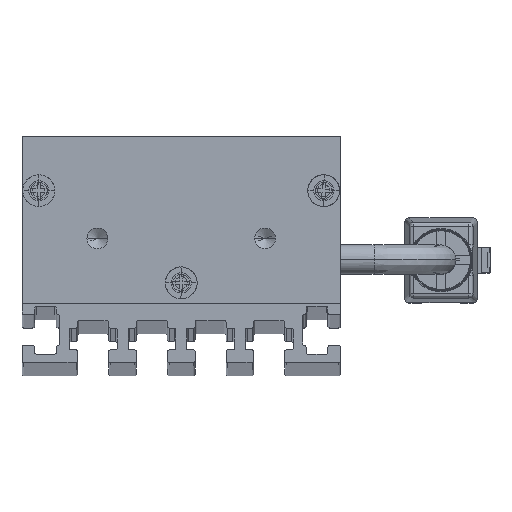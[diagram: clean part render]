
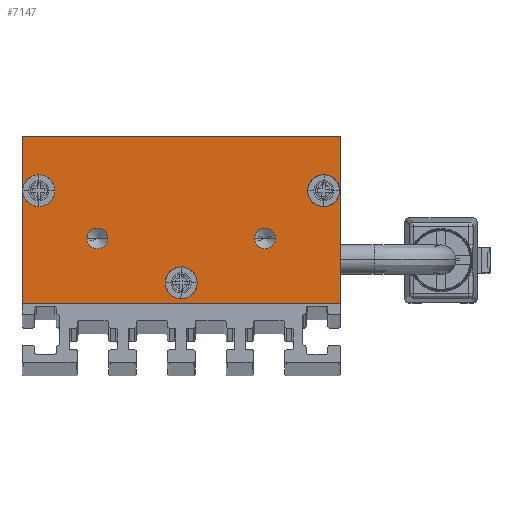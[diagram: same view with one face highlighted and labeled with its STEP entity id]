
A CAD part, top view. The second image highlights one B-rep face of the part: STEP entity #7147.
In plain terms, the highlighted planar face has unit normal (0, 0, 1) as drawn and (0, 0, -1) by its records, which use the part's own axes.
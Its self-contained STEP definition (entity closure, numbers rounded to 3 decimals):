
#45 = CARTESIAN_POINT ( 'NONE',  ( 0., 2.5, -2.5 ) ) ;
#59 = CARTESIAN_POINT ( 'NONE',  ( 17., 13.5, -2.5 ) ) ;
#112 = CARTESIAN_POINT ( 'NONE',  ( -11.25, 7.8, -2.5 ) ) ;
#306 = DIRECTION ( 'NONE',  ( -1., 0., 0. ) ) ;
#309 = ORIENTED_EDGE ( 'NONE', *, *, #7816, .F. ) ;
#433 = CARTESIAN_POINT ( 'NONE',  ( -8.75, 7.8, -2.5 ) ) ;
#612 = VERTEX_POINT ( 'NONE', #9077 ) ;
#811 = VECTOR ( 'NONE', #6672, 1000. ) ;
#864 = EDGE_CURVE ( 'NONE', #15354, #9208, #5000, .T. ) ;
#866 = DIRECTION ( 'NONE',  ( -1., 0., 0. ) ) ;
#1105 = FACE_BOUND ( 'NONE', #8194, .T. ) ;
#1161 = VERTEX_POINT ( 'NONE', #6047 ) ;
#1183 = FACE_BOUND ( 'NONE', #11532, .T. ) ;
#1735 = DIRECTION ( 'NONE',  ( 0., 0., -1. ) ) ;
#1776 = CIRCLE ( 'NONE', #11850, 1.25 ) ;
#1810 = AXIS2_PLACEMENT_3D ( 'NONE', #8389, #7142, #7389 ) ;
#2096 = DIRECTION ( 'NONE',  ( 0., -1., 0. ) ) ;
#2252 = EDGE_CURVE ( 'NONE', #1161, #3590, #14618, .T. ) ;
#2426 = PLANE ( 'NONE',  #12822 ) ;
#2740 = VERTEX_POINT ( 'NONE', #7694 ) ;
#2763 = CIRCLE ( 'NONE', #4338, 1.25 ) ;
#2865 = DIRECTION ( 'NONE',  ( 0., 0., -1. ) ) ;
#2963 = VERTEX_POINT ( 'NONE', #5857 ) ;
#3059 = CARTESIAN_POINT ( 'NONE',  ( -17., 13.5, -2.5 ) ) ;
#3121 = CIRCLE ( 'NONE', #15041, 1.25 ) ;
#3541 = EDGE_CURVE ( 'NONE', #15378, #1161, #7414, .T. ) ;
#3557 = CARTESIAN_POINT ( 'NONE',  ( -18.9, 13.5, -2.5 ) ) ;
#3590 = VERTEX_POINT ( 'NONE', #5359 ) ;
#3634 = ORIENTED_EDGE ( 'NONE', *, *, #15234, .F. ) ;
#3670 = EDGE_LOOP ( 'NONE', ( #5033, #12395 ) ) ;
#3809 = VERTEX_POINT ( 'NONE', #14592 ) ;
#3888 = EDGE_LOOP ( 'NONE', ( #10923, #11470 ) ) ;
#3906 = LINE ( 'NONE', #6587, #811 ) ;
#4316 = CARTESIAN_POINT ( 'NONE',  ( -19., 20., -2.5 ) ) ;
#4338 = AXIS2_PLACEMENT_3D ( 'NONE', #5411, #7759, #8092 ) ;
#4598 = CARTESIAN_POINT ( 'NONE',  ( 18.9, 13.5, -2.5 ) ) ;
#4657 = FACE_BOUND ( 'NONE', #7137, .T. ) ;
#4671 = ORIENTED_EDGE ( 'NONE', *, *, #9193, .F. ) ;
#4875 = CARTESIAN_POINT ( 'NONE',  ( -10., 7.8, -2.5 ) ) ;
#5000 = CIRCLE ( 'NONE', #14287, 1.9 ) ;
#5033 = ORIENTED_EDGE ( 'NONE', *, *, #864, .F. ) ;
#5085 = DIRECTION ( 'NONE',  ( 0., 0., -1. ) ) ;
#5146 = EDGE_CURVE ( 'NONE', #8202, #15358, #13986, .T. ) ;
#5313 = CIRCLE ( 'NONE', #7715, 1.9 ) ;
#5359 = CARTESIAN_POINT ( 'NONE',  ( 19., 0., -2.5 ) ) ;
#5411 = CARTESIAN_POINT ( 'NONE',  ( 10., 7.8, -2.5 ) ) ;
#5452 = DIRECTION ( 'NONE',  ( -1., 0., 0. ) ) ;
#5644 = DIRECTION ( 'NONE',  ( 1., 0., 0. ) ) ;
#5857 = CARTESIAN_POINT ( 'NONE',  ( 19., 20., -2.5 ) ) ;
#5994 = DIRECTION ( 'NONE',  ( -1., 0., 0. ) ) ;
#6047 = CARTESIAN_POINT ( 'NONE',  ( -19., 0., -2.5 ) ) ;
#6112 = ORIENTED_EDGE ( 'NONE', *, *, #13388, .F. ) ;
#6587 = CARTESIAN_POINT ( 'NONE',  ( 19., 20., -2.5 ) ) ;
#6672 = DIRECTION ( 'NONE',  ( 0., 1., 0. ) ) ;
#7089 = ORIENTED_EDGE ( 'NONE', *, *, #9537, .F. ) ;
#7137 = EDGE_LOOP ( 'NONE', ( #6112, #7089 ) ) ;
#7142 = DIRECTION ( 'NONE',  ( 0., 0., -1. ) ) ;
#7147 = ADVANCED_FACE ( 'NONE', ( #4657, #8821, #1183, #15040, #1105, #9980 ), #2426, .F. ) ;
#7281 = CARTESIAN_POINT ( 'NONE',  ( 8.75, 7.8, -2.5 ) ) ;
#7389 = DIRECTION ( 'NONE',  ( -1., 0., 0. ) ) ;
#7414 = LINE ( 'NONE', #13477, #16335 ) ;
#7651 = CIRCLE ( 'NONE', #12698, 1.9 ) ;
#7694 = CARTESIAN_POINT ( 'NONE',  ( -15.1, 13.5, -2.5 ) ) ;
#7715 = AXIS2_PLACEMENT_3D ( 'NONE', #45, #2865, #7943 ) ;
#7759 = DIRECTION ( 'NONE',  ( 0., 0., -1. ) ) ;
#7792 = AXIS2_PLACEMENT_3D ( 'NONE', #3059, #1735, #5452 ) ;
#7816 = EDGE_CURVE ( 'NONE', #2963, #15378, #9686, .T. ) ;
#7821 = VERTEX_POINT ( 'NONE', #4598 ) ;
#7843 = VERTEX_POINT ( 'NONE', #7281 ) ;
#7849 = DIRECTION ( 'NONE',  ( -1., 0., 0. ) ) ;
#7943 = DIRECTION ( 'NONE',  ( -1., 0., 0. ) ) ;
#8092 = DIRECTION ( 'NONE',  ( -1., 0., 0. ) ) ;
#8107 = EDGE_CURVE ( 'NONE', #612, #7843, #2763, .T. ) ;
#8177 = CIRCLE ( 'NONE', #1810, 1.9 ) ;
#8194 = EDGE_LOOP ( 'NONE', ( #15007, #11010 ) ) ;
#8202 = VERTEX_POINT ( 'NONE', #112 ) ;
#8339 = CIRCLE ( 'NONE', #7792, 1.9 ) ;
#8389 = CARTESIAN_POINT ( 'NONE',  ( -17., 13.5, -2.5 ) ) ;
#8485 = DIRECTION ( 'NONE',  ( -1., 0., 0. ) ) ;
#8574 = CARTESIAN_POINT ( 'NONE',  ( 10., 7.8, -2.5 ) ) ;
#8724 = DIRECTION ( 'NONE',  ( 0., 0., -1. ) ) ;
#8821 = FACE_BOUND ( 'NONE', #3670, .T. ) ;
#9077 = CARTESIAN_POINT ( 'NONE',  ( 11.25, 7.8, -2.5 ) ) ;
#9193 = EDGE_CURVE ( 'NONE', #10173, #2740, #8339, .T. ) ;
#9208 = VERTEX_POINT ( 'NONE', #10533 ) ;
#9311 = ORIENTED_EDGE ( 'NONE', *, *, #2252, .F. ) ;
#9408 = DIRECTION ( 'NONE',  ( 0., 0., -1. ) ) ;
#9537 = EDGE_CURVE ( 'NONE', #7821, #3809, #14964, .T. ) ;
#9686 = LINE ( 'NONE', #14745, #12835 ) ;
#9842 = ORIENTED_EDGE ( 'NONE', *, *, #3541, .F. ) ;
#9894 = DIRECTION ( 'NONE',  ( 0., 0., -1. ) ) ;
#9980 = FACE_OUTER_BOUND ( 'NONE', #14611, .T. ) ;
#10110 = ORIENTED_EDGE ( 'NONE', *, *, #12771, .F. ) ;
#10173 = VERTEX_POINT ( 'NONE', #3557 ) ;
#10494 = CARTESIAN_POINT ( 'NONE',  ( 17., 13.5, -2.5 ) ) ;
#10533 = CARTESIAN_POINT ( 'NONE',  ( 1.9, 2.5, -2.5 ) ) ;
#10645 = CARTESIAN_POINT ( 'NONE',  ( -1.9, 2.5, -2.5 ) ) ;
#10721 = AXIS2_PLACEMENT_3D ( 'NONE', #10494, #5085, #7849 ) ;
#10923 = ORIENTED_EDGE ( 'NONE', *, *, #11404, .F. ) ;
#11010 = ORIENTED_EDGE ( 'NONE', *, *, #12556, .F. ) ;
#11111 = VECTOR ( 'NONE', #5644, 1000. ) ;
#11404 = EDGE_CURVE ( 'NONE', #7843, #612, #1776, .T. ) ;
#11470 = ORIENTED_EDGE ( 'NONE', *, *, #8107, .F. ) ;
#11532 = EDGE_LOOP ( 'NONE', ( #4671, #10110 ) ) ;
#11850 = AXIS2_PLACEMENT_3D ( 'NONE', #8574, #9894, #5994 ) ;
#11870 = DIRECTION ( 'NONE',  ( 0., 0., -1. ) ) ;
#12058 = CARTESIAN_POINT ( 'NONE',  ( -19., 0., -2.5 ) ) ;
#12395 = ORIENTED_EDGE ( 'NONE', *, *, #14923, .F. ) ;
#12556 = EDGE_CURVE ( 'NONE', #15358, #8202, #3121, .T. ) ;
#12698 = AXIS2_PLACEMENT_3D ( 'NONE', #59, #14001, #306 ) ;
#12771 = EDGE_CURVE ( 'NONE', #2740, #10173, #8177, .T. ) ;
#12822 = AXIS2_PLACEMENT_3D ( 'NONE', #13796, #13635, #13560 ) ;
#12835 = VECTOR ( 'NONE', #13425, 1000. ) ;
#13388 = EDGE_CURVE ( 'NONE', #3809, #7821, #7651, .T. ) ;
#13425 = DIRECTION ( 'NONE',  ( -1., 0., 0. ) ) ;
#13477 = CARTESIAN_POINT ( 'NONE',  ( -19., 20., -2.5 ) ) ;
#13479 = CARTESIAN_POINT ( 'NONE',  ( 0., 2.5, -2.5 ) ) ;
#13560 = DIRECTION ( 'NONE',  ( 1., 0., 0. ) ) ;
#13635 = DIRECTION ( 'NONE',  ( 0., 0., 1. ) ) ;
#13796 = CARTESIAN_POINT ( 'NONE',  ( 0., 0., -2.5 ) ) ;
#13986 = CIRCLE ( 'NONE', #14791, 1.25 ) ;
#14001 = DIRECTION ( 'NONE',  ( 0., 0., -1. ) ) ;
#14287 = AXIS2_PLACEMENT_3D ( 'NONE', #13479, #9408, #866 ) ;
#14592 = CARTESIAN_POINT ( 'NONE',  ( 15.1, 13.5, -2.5 ) ) ;
#14611 = EDGE_LOOP ( 'NONE', ( #9842, #309, #3634, #9311 ) ) ;
#14618 = LINE ( 'NONE', #12058, #11111 ) ;
#14745 = CARTESIAN_POINT ( 'NONE',  ( -19., 20., -2.5 ) ) ;
#14791 = AXIS2_PLACEMENT_3D ( 'NONE', #4875, #8724, #8485 ) ;
#14923 = EDGE_CURVE ( 'NONE', #9208, #15354, #5313, .T. ) ;
#14964 = CIRCLE ( 'NONE', #10721, 1.9 ) ;
#15007 = ORIENTED_EDGE ( 'NONE', *, *, #5146, .F. ) ;
#15040 = FACE_BOUND ( 'NONE', #3888, .T. ) ;
#15041 = AXIS2_PLACEMENT_3D ( 'NONE', #15596, #11870, #15676 ) ;
#15234 = EDGE_CURVE ( 'NONE', #3590, #2963, #3906, .T. ) ;
#15354 = VERTEX_POINT ( 'NONE', #10645 ) ;
#15358 = VERTEX_POINT ( 'NONE', #433 ) ;
#15378 = VERTEX_POINT ( 'NONE', #4316 ) ;
#15596 = CARTESIAN_POINT ( 'NONE',  ( -10., 7.8, -2.5 ) ) ;
#15676 = DIRECTION ( 'NONE',  ( -1., 0., 0. ) ) ;
#16335 = VECTOR ( 'NONE', #2096, 1000. ) ;
